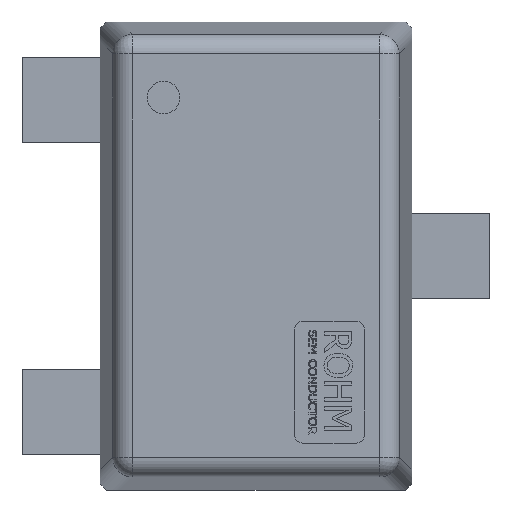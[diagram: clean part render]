
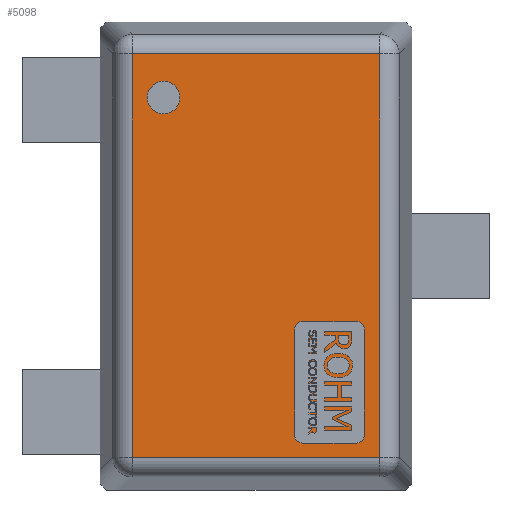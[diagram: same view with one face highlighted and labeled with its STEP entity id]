
A CAD part, top view. The second image highlights one B-rep face of the part: STEP entity #5098.
In plain terms, the highlighted planar face has unit normal (0, 0, 1).
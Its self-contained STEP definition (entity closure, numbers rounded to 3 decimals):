
#440=PLANE('',#5412);
#617=FACE_OUTER_BOUND('',#901,.T.);
#901=EDGE_LOOP('',(#3575,#3576,#3577,#3578));
#1206=LINE('',#6527,#1713);
#1208=LINE('',#6535,#1715);
#1210=LINE('',#6545,#1717);
#1212=LINE('',#6554,#1719);
#1713=VECTOR('',#5598,0.635);
#1715=VECTOR('',#5606,1.035);
#1717=VECTOR('',#5618,0.635);
#1719=VECTOR('',#5630,1.035);
#2243=VERTEX_POINT('',#6524);
#2244=VERTEX_POINT('',#6526);
#2247=VERTEX_POINT('',#6534);
#2250=VERTEX_POINT('',#6544);
#2755=EDGE_CURVE('',#2243,#2244,#1206,.T.);
#2759=EDGE_CURVE('',#2244,#2247,#1208,.T.);
#2764=EDGE_CURVE('',#2247,#2250,#1210,.T.);
#2769=EDGE_CURVE('',#2250,#2243,#1212,.T.);
#3575=ORIENTED_EDGE('',*,*,#2755,.F.);
#3576=ORIENTED_EDGE('',*,*,#2769,.F.);
#3577=ORIENTED_EDGE('',*,*,#2764,.F.);
#3578=ORIENTED_EDGE('',*,*,#2759,.F.);
#5098=ADVANCED_FACE('',(#617),#440,.T.);
#5412=AXIS2_PLACEMENT_3D('',#6588,#5669,#5670);
#5598=DIRECTION('',(0.,1.,0.));
#5606=DIRECTION('',(1.,0.,0.));
#5618=DIRECTION('',(0.,-1.,0.));
#5630=DIRECTION('',(-1.,0.,0.));
#5669=DIRECTION('center_axis',(0.,0.,1.));
#5670=DIRECTION('ref_axis',(1.,0.,0.));
#6524=CARTESIAN_POINT('',(-0.517,-0.317,0.5));
#6526=CARTESIAN_POINT('',(-0.517,0.317,0.5));
#6527=CARTESIAN_POINT('',(-0.517,0.1,0.5));
#6534=CARTESIAN_POINT('',(0.517,0.317,0.5));
#6535=CARTESIAN_POINT('',(0.15,0.317,0.5));
#6544=CARTESIAN_POINT('',(0.517,-0.317,0.5));
#6545=CARTESIAN_POINT('',(0.517,-0.1,0.5));
#6554=CARTESIAN_POINT('',(-0.15,-0.317,0.5));
#6588=CARTESIAN_POINT('Origin',(0.,0.,0.5));
